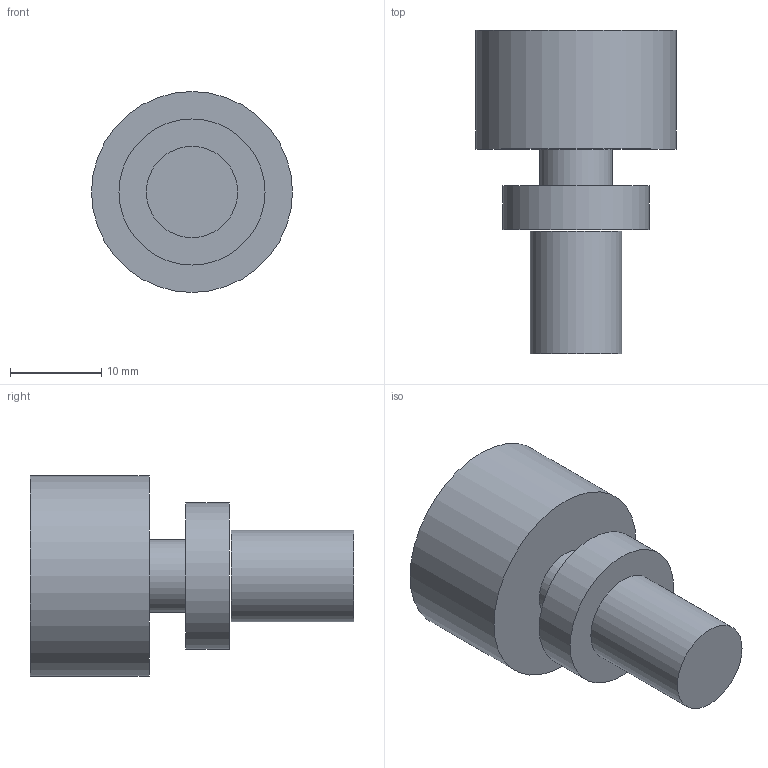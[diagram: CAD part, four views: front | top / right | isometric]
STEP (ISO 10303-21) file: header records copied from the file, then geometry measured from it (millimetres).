
FILE_DESCRIPTION(('Open CASCADE Model'),'2;1');
FILE_NAME('Open CASCADE Shape Model','2026-10-15T18:58:36',('Author'),( 'Open CASCADE'),'Open CASCADE STEP processor 7.9','Open CASCADE 7.9' ,'Unknown');
FILE_SCHEMA(('AUTOMOTIVE_DESIGN { 1 0 10303 214 1 1 1 1 }'));
Length unit declared in the file: millimetre
Products named in the file (3): Open CASCADE STEP translator 7.9 6; Open CASCADE STEP translator 7.9 6.1; Open CASCADE STEP translator 7.9 6.2
Assembly tree (2 placements, depth 2):
  Open CASCADE STEP translator 7.9 6
    Open CASCADE STEP translator 7.9 6.1
    Open CASCADE STEP translator 7.9 6.2
Bounding box: 22 x 35.4 x 22 mm (x, y, z)
Volume: 7160.3 mm3; surface area: 2880.2 mm2
Topology: 2 solids, 2 shells, 10 faces, 12 edges, 8 vertices
Faces by surface type: plane 6, cylinder 4
Full cylindrical faces by diameter (mm): 8 x1, 10 x1, 16 x1, 22 x1
Entity records: 404 total; most frequent: DIRECTION 70, CARTESIAN_POINT 57, ORIENTED_EDGE 24, PCURVE 24, DEFINITIONAL_REPRESENTATION 24, AXIS2_PLACEMENT_3D 21, LINE 20, VECTOR 20
